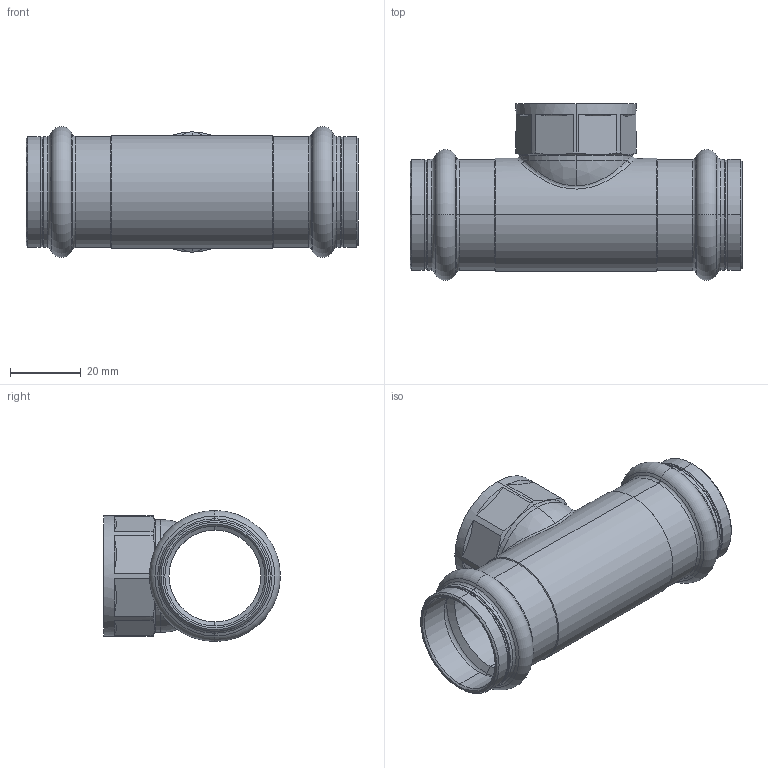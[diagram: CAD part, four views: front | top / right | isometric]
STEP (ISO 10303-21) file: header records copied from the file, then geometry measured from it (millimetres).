
FILE_DESCRIPTION (( 'STEP AP203' ), '1' );
FILE_NAME ('SP4130G Ø28 3-4 28.STEP', '2017-04-28T09:12:12', ( '' ), ( '' ), 'SwSTEP 2.0', 'SolidWorks 2016', '' );
FILE_SCHEMA (( 'CONFIG_CONTROL_DESIGN' ));
Length unit declared in the file: millimetre
Products named in the file (1): SP4130G Ø28 3-4 28
Bounding box: 94 x 50.05 x 37.1 mm (x, y, z)
Volume: 25711.2 mm3; surface area: 22128.8 mm2
Topology: 1 solids, 1 shells, 144 faces, 325 edges, 184 vertices
Faces by surface type: cone 50, cylinder 37, torus 24, plane 21, bspline 6, sphere 6
Entity records: 5068 total; most frequent: CARTESIAN_POINT 1796, DIRECTION 731, ORIENTED_EDGE 642, EDGE_CURVE 321, AXIS2_PLACEMENT_3D 315, VERTEX_POINT 182, CIRCLE 176, EDGE_LOOP 151
